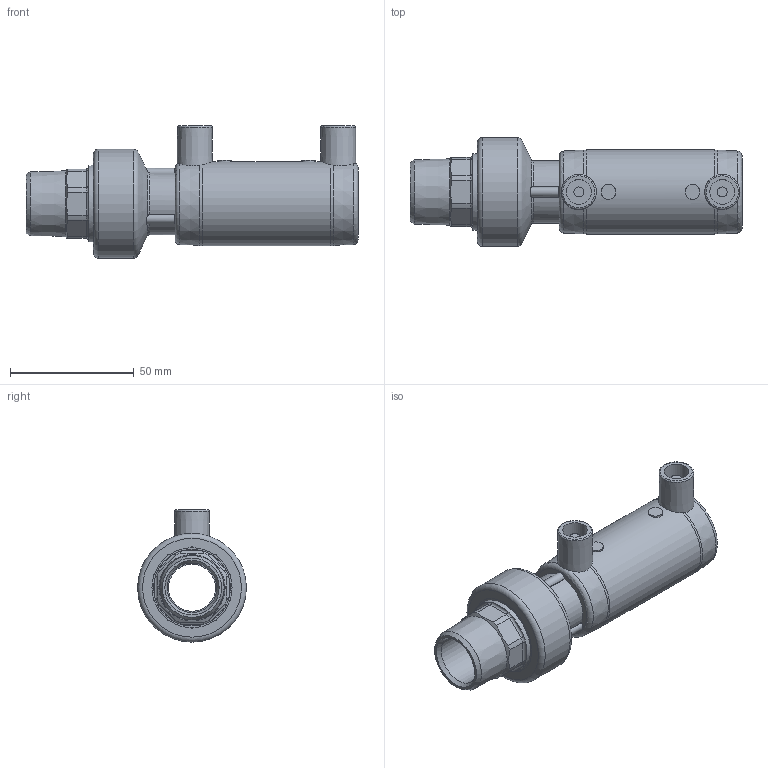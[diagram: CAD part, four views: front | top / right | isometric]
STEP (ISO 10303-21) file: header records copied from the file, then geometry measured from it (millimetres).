
FILE_DESCRIPTION(/* description */ ('Unknown'),/* implementation_level */ '2;1');
FILE_NAME(/* name */ 'MTMP025C',/* time_stamp */ '2021-03-02T09:50:18+01:00',/* author */ ('Unknown'),/* organization */ ('Unknown'),/* preprocessor_version */ 'ST-DEVELOPER v16.7',/* originating_system */ 'Solid Edge',/* authorisation */ 'Unknown');
FILE_SCHEMA (('AUTOMOTIVE_DESIGN {1 0 10303 214 3 1 1}'));
Length unit declared in the file: millimetre
Products named in the file (5): MTMP025C; MP025C; RTOMP025C; Parte PE 025; IOM025C
Assembly tree (4 placements, depth 3):
  MTMP025C
    MP025C
    RTOMP025C
      Parte PE 025
      IOM025C
Bounding box: 134.3 x 44 x 53.5 mm (x, y, z)
Volume: 74599 mm3; surface area: 40275.1 mm2
Topology: 3 solids, 3 shells, 480 faces, 1269 edges, 815 vertices
Faces by surface type: cylinder 190, plane 93, cone 90, bspline 63, torus 44
Full cylindrical faces by diameter (mm): 4 x2, 6 x2, 10 x2, 19 x1, 20 x1, 23.5 x2, 25 x2, 26.3 x2, 26.5 x2, 31 x1, 33 x2, 34 x1, 36 x4, 44 x1
Entity records: 18294 total; most frequent: CARTESIAN_POINT 6079, ORIENTED_EDGE 2404, DIRECTION 1884, EDGE_CURVE 1202, AXIS2_PLACEMENT_3D 846, VERTEX_POINT 798, B_SPLINE_CURVE_WITH_KNOTS 586, EDGE_LOOP 556
